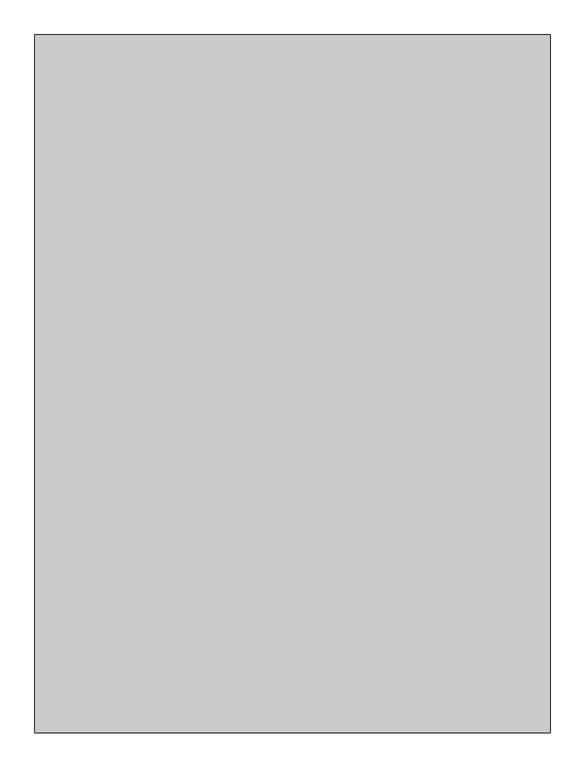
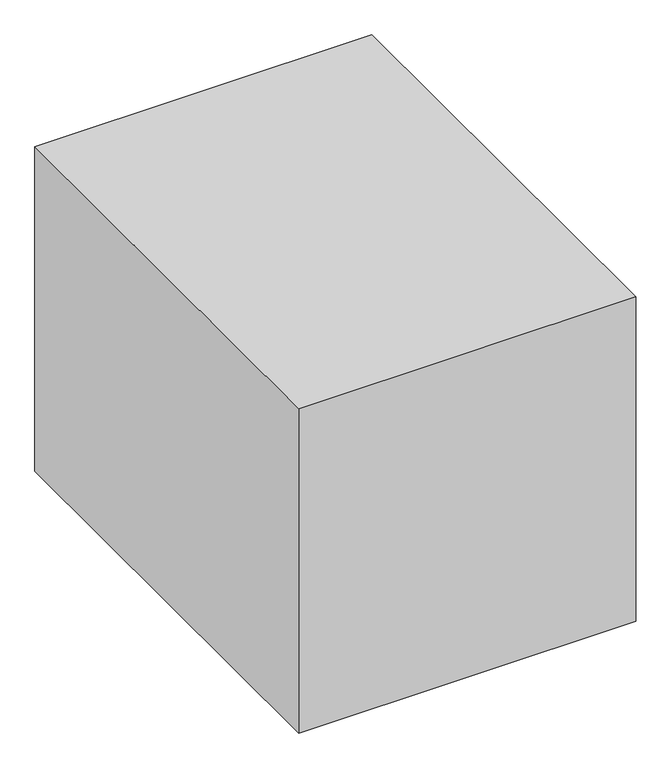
"""IFC4 building model written with IfcOpenShell, lengths in millimetres: proxy geometry."""

from ifc_helpers import new_model, si_unit, origin, origin_with_axes, place, context, project, spatial, polyline, outline, extrude, source, transform, mapped, element, save


def generic_models_c4fb5a6f(model_context):
    return source(origin(), model_context, "Body", "SweptSolid", [
        extrude(outline(polyline([(-110299.3218005, -41335.0027343), (-112754.8280797, -41335.0027343), (-112754.8280797, -38007.1966115), (-110299.3218005, -38007.1966115), (-110299.3218005, -41335.0027343)])), origin_with_axes(), (0.0, 0.0, 1.0), 2500.0),
    ])


if __name__ == "__main__":
    model = new_model("IFC4")
    model_context = context("Model", 3, world=origin())
    ifc_project = project(units=[si_unit("LENGTHUNIT", "METRE", prefix="MILLI")], contexts=[model_context])
    site = spatial("IfcSite", under=ifc_project)
    building = spatial("IfcBuilding", under=site)
    placement = place(None, origin())
    generic_models_shape = generic_models_c4fb5a6f(model_context)
    element("IfcBuildingElementProxy", 1, Name="Generic Models", at=placement, inside=building, context=model_context, shape_type="MappedRepresentation", body=[
        mapped(generic_models_shape, transform((0.0, 0.0, 0.0), x_axis=(1.0, 0.0, 0.0), y_axis=(0.0, 1.0, 0.0), z_axis=(0.0, 0.0, 1.0))),
    ])
    save(model, "model.ifc")
